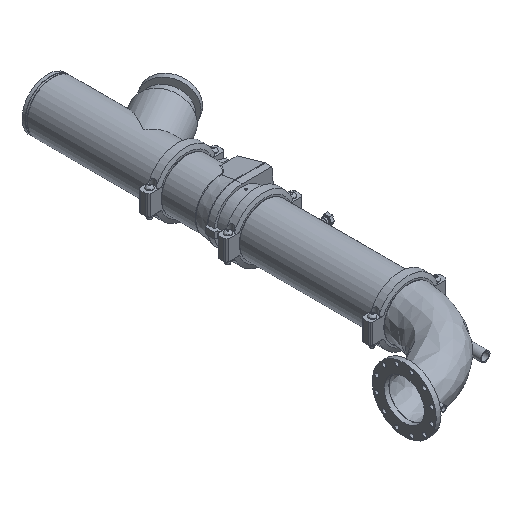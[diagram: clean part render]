
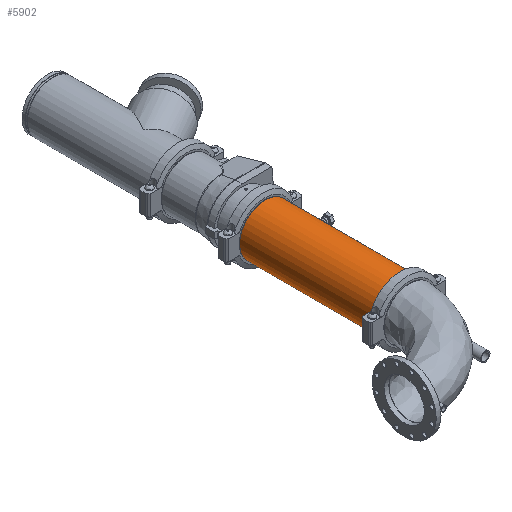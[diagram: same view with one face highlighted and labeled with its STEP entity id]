
A CAD part, isometric view. The second image highlights one B-rep face of the part: STEP entity #5902.
In plain terms, the highlighted cylindrical face has radius 161.925 mm (diameter 323.85 mm), a full revolution.
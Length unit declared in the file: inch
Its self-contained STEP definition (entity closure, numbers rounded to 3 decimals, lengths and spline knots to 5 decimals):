
#158=LINE('',#8972,#580);
#580=VECTOR('',#7148,6.375);
#1002=CYLINDRICAL_SURFACE('',#6424,6.375);
#1208=FACE_OUTER_BOUND('',#1541,.T.);
#1541=EDGE_LOOP('',(#3719,#3720,#3721,#3722,#3723,#3724));
#1965=CIRCLE('',#6422,6.375);
#1966=CIRCLE('',#6423,6.375);
#1967=CIRCLE('',#6425,6.375);
#1968=CIRCLE('',#6426,6.375);
#2310=VERTEX_POINT('',#8963);
#2311=VERTEX_POINT('',#8964);
#2312=VERTEX_POINT('',#8968);
#2313=VERTEX_POINT('',#8969);
#2882=EDGE_CURVE('',#2310,#2311,#1965,.T.);
#2883=EDGE_CURVE('',#2311,#2310,#1966,.T.);
#2884=EDGE_CURVE('',#2312,#2313,#1967,.T.);
#2885=EDGE_CURVE('',#2313,#2312,#1968,.T.);
#2886=EDGE_CURVE('',#2313,#2311,#158,.T.);
#3719=ORIENTED_EDGE('',*,*,#2884,.F.);
#3720=ORIENTED_EDGE('',*,*,#2885,.F.);
#3721=ORIENTED_EDGE('',*,*,#2886,.T.);
#3722=ORIENTED_EDGE('',*,*,#2883,.T.);
#3723=ORIENTED_EDGE('',*,*,#2882,.T.);
#3724=ORIENTED_EDGE('',*,*,#2886,.F.);
#5902=ADVANCED_FACE('',(#1208),#1002,.T.);
#6422=AXIS2_PLACEMENT_3D('',#8965,#7138,#7139);
#6423=AXIS2_PLACEMENT_3D('',#8966,#7140,#7141);
#6424=AXIS2_PLACEMENT_3D('',#8967,#7142,#7143);
#6425=AXIS2_PLACEMENT_3D('',#8970,#7144,#7145);
#6426=AXIS2_PLACEMENT_3D('',#8971,#7146,#7147);
#7138=DIRECTION('center_axis',(1.,0.,0.));
#7139=DIRECTION('ref_axis',(0.,0.,-1.));
#7140=DIRECTION('center_axis',(1.,0.,0.));
#7141=DIRECTION('ref_axis',(0.,0.,-1.));
#7142=DIRECTION('center_axis',(1.,0.,0.));
#7143=DIRECTION('ref_axis',(0.,1.,0.));
#7144=DIRECTION('center_axis',(1.,0.,0.));
#7145=DIRECTION('ref_axis',(0.,0.,-1.));
#7146=DIRECTION('center_axis',(1.,0.,0.));
#7147=DIRECTION('ref_axis',(0.,0.,-1.));
#7148=DIRECTION('',(-1.,0.,0.));
#8963=CARTESIAN_POINT('',(-16.8085,6.375,0.));
#8964=CARTESIAN_POINT('',(-16.8085,-6.375,0.));
#8965=CARTESIAN_POINT('Origin',(-16.8085,0.,0.));
#8966=CARTESIAN_POINT('Origin',(-16.8085,0.,0.));
#8967=CARTESIAN_POINT('Origin',(0.,0.,0.));
#8968=CARTESIAN_POINT('',(16.8085,6.375,0.));
#8969=CARTESIAN_POINT('',(16.8085,-6.375,0.));
#8970=CARTESIAN_POINT('Origin',(16.8085,0.,0.));
#8971=CARTESIAN_POINT('Origin',(16.8085,0.,0.));
#8972=CARTESIAN_POINT('',(0.,-6.375,0.));
